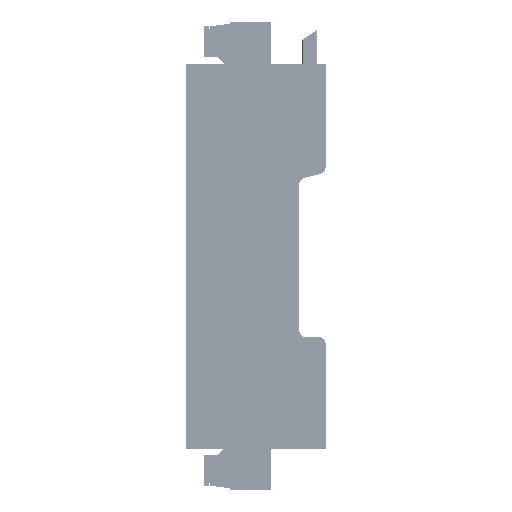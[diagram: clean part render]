
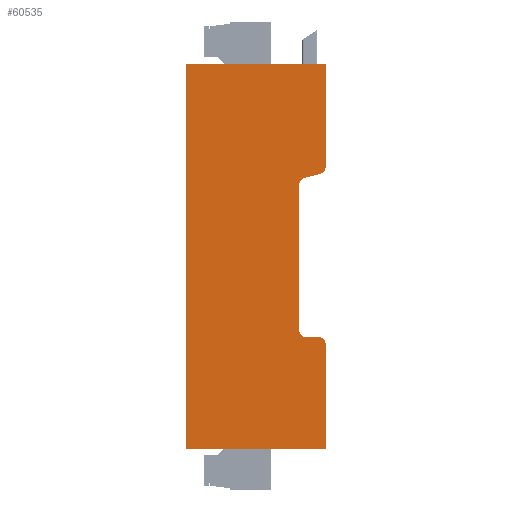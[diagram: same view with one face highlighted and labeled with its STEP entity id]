
A CAD part, left-side view. The second image highlights one B-rep face of the part: STEP entity #60535.
In plain terms, the highlighted planar face has unit normal (-1, 0, 0).
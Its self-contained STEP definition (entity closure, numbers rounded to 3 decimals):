
#4506=PLANE('',#65899);
#7629=FACE_OUTER_BOUND('',#10996,.T.);
#10996=EDGE_LOOP('',(#56525,#56526,#56527,#56528,#56529,#56530,#56531,#56532,
#56533,#56534,#56535,#56536,#56537,#56538));
#12892=CIRCLE('',#65884,1.5);
#12894=CIRCLE('',#65888,1.5);
#12896=CIRCLE('',#65893,1.5);
#12898=CIRCLE('',#65897,1.5);
#19109=LINE('',#102338,#25358);
#19113=LINE('',#102350,#25362);
#19117=LINE('',#102359,#25366);
#19121=LINE('',#102371,#25370);
#19125=LINE('',#102381,#25374);
#19126=LINE('',#102384,#25375);
#19127=LINE('',#102386,#25376);
#19128=LINE('',#102388,#25377);
#19129=LINE('',#102390,#25378);
#19130=LINE('',#102391,#25379);
#25358=VECTOR('',#82510,10.);
#25362=VECTOR('',#82522,10.);
#25366=VECTOR('',#82528,10.);
#25370=VECTOR('',#82540,10.);
#25374=VECTOR('',#82552,10.);
#25375=VECTOR('',#82555,10.);
#25376=VECTOR('',#82556,10.);
#25377=VECTOR('',#82557,10.);
#25378=VECTOR('',#82558,10.);
#25379=VECTOR('',#82559,10.);
#30902=VERTEX_POINT('',#102329);
#30903=VERTEX_POINT('',#102331);
#30905=VERTEX_POINT('',#102337);
#30907=VERTEX_POINT('',#102343);
#30909=VERTEX_POINT('',#102349);
#30912=VERTEX_POINT('',#102356);
#30913=VERTEX_POINT('',#102358);
#30915=VERTEX_POINT('',#102364);
#30917=VERTEX_POINT('',#102370);
#30919=VERTEX_POINT('',#102376);
#30920=VERTEX_POINT('',#102383);
#30921=VERTEX_POINT('',#102385);
#30922=VERTEX_POINT('',#102387);
#30923=VERTEX_POINT('',#102389);
#39439=EDGE_CURVE('',#30903,#30902,#12892,.T.);
#39442=EDGE_CURVE('',#30905,#30903,#19109,.T.);
#39445=EDGE_CURVE('',#30907,#30905,#12894,.T.);
#39448=EDGE_CURVE('',#30909,#30907,#19113,.T.);
#39452=EDGE_CURVE('',#30913,#30912,#19117,.T.);
#39455=EDGE_CURVE('',#30915,#30913,#12896,.T.);
#39458=EDGE_CURVE('',#30917,#30915,#19121,.T.);
#39461=EDGE_CURVE('',#30919,#30917,#12898,.T.);
#39464=EDGE_CURVE('',#30902,#30919,#19125,.T.);
#39465=EDGE_CURVE('',#30920,#30912,#19126,.T.);
#39466=EDGE_CURVE('',#30921,#30920,#19127,.T.);
#39467=EDGE_CURVE('',#30922,#30921,#19128,.T.);
#39468=EDGE_CURVE('',#30922,#30923,#19129,.T.);
#39469=EDGE_CURVE('',#30909,#30923,#19130,.T.);
#56525=ORIENTED_EDGE('',*,*,#39448,.T.);
#56526=ORIENTED_EDGE('',*,*,#39445,.T.);
#56527=ORIENTED_EDGE('',*,*,#39442,.T.);
#56528=ORIENTED_EDGE('',*,*,#39439,.T.);
#56529=ORIENTED_EDGE('',*,*,#39464,.T.);
#56530=ORIENTED_EDGE('',*,*,#39461,.T.);
#56531=ORIENTED_EDGE('',*,*,#39458,.T.);
#56532=ORIENTED_EDGE('',*,*,#39455,.T.);
#56533=ORIENTED_EDGE('',*,*,#39452,.T.);
#56534=ORIENTED_EDGE('',*,*,#39465,.F.);
#56535=ORIENTED_EDGE('',*,*,#39466,.F.);
#56536=ORIENTED_EDGE('',*,*,#39467,.F.);
#56537=ORIENTED_EDGE('',*,*,#39468,.T.);
#56538=ORIENTED_EDGE('',*,*,#39469,.F.);
#60535=ADVANCED_FACE('',(#7629),#4506,.T.);
#65884=AXIS2_PLACEMENT_3D('',#102332,#82504,#82505);
#65888=AXIS2_PLACEMENT_3D('',#102344,#82516,#82517);
#65893=AXIS2_PLACEMENT_3D('',#102365,#82534,#82535);
#65897=AXIS2_PLACEMENT_3D('',#102377,#82546,#82547);
#65899=AXIS2_PLACEMENT_3D('',#102382,#82553,#82554);
#82504=DIRECTION('center_axis',(1.,0.,0.));
#82505=DIRECTION('ref_axis',(0.,1.,0.));
#82510=DIRECTION('',(0.,1.,0.));
#82516=DIRECTION('center_axis',(-1.,0.,0.));
#82517=DIRECTION('ref_axis',(0.,-1.,0.));
#82522=DIRECTION('',(0.,1.,0.));
#82528=DIRECTION('',(0.,-1.,0.));
#82534=DIRECTION('center_axis',(-1.,0.,0.));
#82535=DIRECTION('ref_axis',(0.,-0.259,-0.966));
#82540=DIRECTION('',(0.,-0.966,0.259));
#82546=DIRECTION('center_axis',(1.,0.,0.));
#82547=DIRECTION('ref_axis',(0.,0.259,0.966));
#82552=DIRECTION('',(0.,0.,1.));
#82553=DIRECTION('center_axis',(-1.,0.,0.));
#82554=DIRECTION('ref_axis',(0.,0.,-1.));
#82555=DIRECTION('',(0.,0.,-1.));
#82556=DIRECTION('',(0.,-1.,0.));
#82557=DIRECTION('',(0.,0.,1.));
#82558=DIRECTION('',(0.,-1.,0.));
#82559=DIRECTION('',(0.,0.,-1.));
#102329=CARTESIAN_POINT('',(-78.935,6.,-17.));
#102331=CARTESIAN_POINT('',(-78.935,4.5,-18.5));
#102332=CARTESIAN_POINT('Origin',(-78.935,4.5,-17.));
#102337=CARTESIAN_POINT('',(-78.935,1.5,-18.5));
#102338=CARTESIAN_POINT('',(-78.935,16.7,-18.5));
#102343=CARTESIAN_POINT('',(-78.935,0.,-20.));
#102344=CARTESIAN_POINT('Origin',(-78.935,1.5,-20.));
#102349=CARTESIAN_POINT('',(-78.935,-0.1,-20.));
#102350=CARTESIAN_POINT('',(-78.935,15.9,-20.));
#102356=CARTESIAN_POINT('',(-78.935,-0.1,20.319));
#102358=CARTESIAN_POINT('',(-78.935,0.,20.319));
#102359=CARTESIAN_POINT('',(-78.935,15.95,20.319));
#102364=CARTESIAN_POINT('',(-78.935,1.112,18.87));
#102365=CARTESIAN_POINT('Origin',(-78.935,1.5,20.319));
#102370=CARTESIAN_POINT('',(-78.935,4.888,17.858));
#102371=CARTESIAN_POINT('',(-78.935,14.222,15.357));
#102376=CARTESIAN_POINT('',(-78.935,6.,16.409));
#102377=CARTESIAN_POINT('Origin',(-78.935,4.5,16.409));
#102381=CARTESIAN_POINT('',(-78.935,6.,13.5));
#102382=CARTESIAN_POINT('Origin',(-78.935,31.9,44.));
#102383=CARTESIAN_POINT('',(-78.935,-0.1,44.));
#102384=CARTESIAN_POINT('',(-78.935,-0.1,-44.));
#102385=CARTESIAN_POINT('',(-78.935,31.9,44.));
#102386=CARTESIAN_POINT('',(-78.935,31.9,44.));
#102387=CARTESIAN_POINT('',(-78.935,31.9,-44.));
#102388=CARTESIAN_POINT('',(-78.935,31.9,-44.));
#102389=CARTESIAN_POINT('',(-78.935,-0.1,-44.));
#102390=CARTESIAN_POINT('',(-78.935,31.9,-44.));
#102391=CARTESIAN_POINT('',(-78.935,-0.1,-44.));
